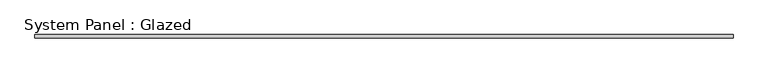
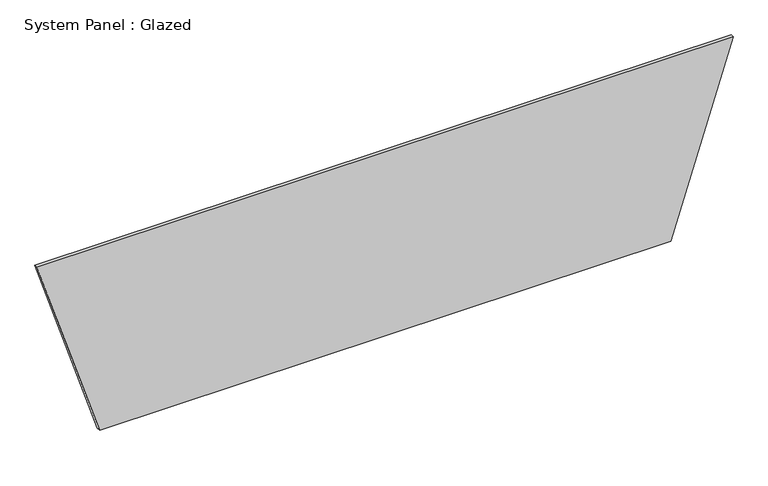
"""IFC4 building model written with IfcOpenShell, lengths in millimetres: plate geometry, System Panel : Glazed."""

from ifc_helpers import new_model, si_unit, frame, origin, place, context, project, spatial, polyline, outline, extrude, source, transform, mapped, element, save


def system_panel_glazed_64c42520(model_context):
    return source(origin(), model_context, "Body", "SweptSolid", [
        extrude(outline(polyline([(0.0, -2026.7012209), (0.0, 2026.7012209), (1377.5998939, 2470.9661762), (1377.5998939, -2470.9661762), (0.0, -2026.7012209)])), frame((0.0, -49.5, 0.0), z_axis=(0.0, 1.0, 0.0), x_axis=(0.0, 0.0, 1.0)), (0.0, 0.0, 1.0), 25.0),
    ])


if __name__ == "__main__":
    model = new_model("IFC4")
    model_context = context("Model", 3, world=origin())
    ifc_project = project(units=[si_unit("LENGTHUNIT", "METRE", prefix="MILLI")], contexts=[model_context])
    site = spatial("IfcSite", under=ifc_project)
    building = spatial("IfcBuilding", under=site)
    placement = place(None, origin())
    system_panel_glazed_shape = system_panel_glazed_64c42520(model_context)
    element("IfcPlate", 1, ObjectType="System Panel : Glazed", at=placement, inside=building, context=model_context, shape_type="MappedRepresentation", body=[
        mapped(system_panel_glazed_shape, transform((0.0, 0.0, 0.0), x_axis=(1.0, 0.0, 0.0), y_axis=(0.0, 1.0, 0.0), z_axis=(0.0, 0.0, 1.0))),
    ])
    save(model, "model.ifc")
